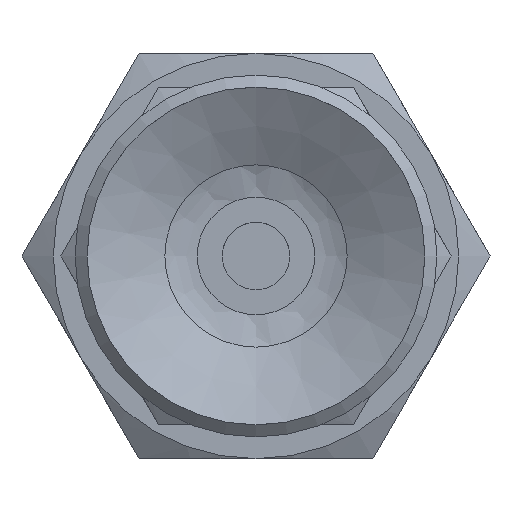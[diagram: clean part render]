
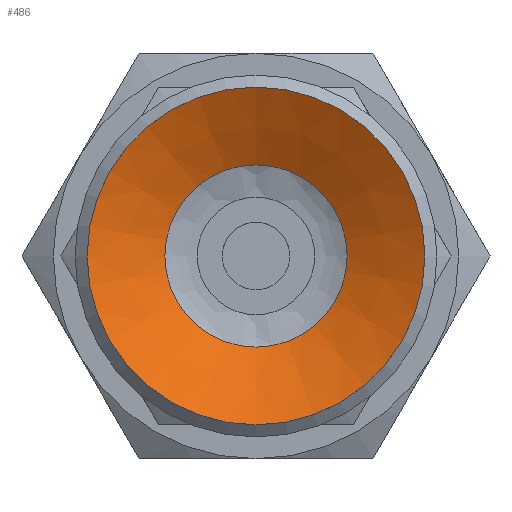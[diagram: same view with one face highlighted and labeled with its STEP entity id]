
A CAD part, front view. The second image highlights one B-rep face of the part: STEP entity #486.
In plain terms, the highlighted conical face has half-angle 61.39 degrees and reference radius 2.25 mm.
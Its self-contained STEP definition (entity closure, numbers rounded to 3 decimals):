
#486=ADVANCED_FACE('',(#722,#723),#724,.F.);
#722=FACE_BOUND('',#991,.T.);
#723=FACE_OUTER_BOUND('',#992,.T.);
#724=CONICAL_SURFACE('',#993,2.25,1.071);
#991=EDGE_LOOP('',(#1663));
#992=EDGE_LOOP('',(#1664));
#993=AXIS2_PLACEMENT_3D('',#1665,#1666,#1667);
#1663=ORIENTED_EDGE('',*,*,#1907,.T.);
#1664=ORIENTED_EDGE('',*,*,#1908,.T.);
#1665=CARTESIAN_POINT('',(0.0,1.5,0.0));
#1666=DIRECTION('',(-0.0,-1.0,0.));
#1667=DIRECTION('',(0.0,0.,-1.0));
#1907=EDGE_CURVE('',#2196,#2196,#2197,.T.);
#1908=EDGE_CURVE('',#2198,#2198,#2199,.T.);
#2196=VERTEX_POINT('',#2888);
#2197=CIRCLE('',#2889,2.698);
#2198=VERTEX_POINT('',#2890);
#2199=CIRCLE('',#2891,5.);
#2888=CARTESIAN_POINT('',(0.0,1.256,-2.698));
#2889=AXIS2_PLACEMENT_3D('',#3162,#3163,#3164);
#2890=CARTESIAN_POINT('',(0.0,0.,-5.));
#2891=AXIS2_PLACEMENT_3D('',#3165,#3166,#3167);
#3162=CARTESIAN_POINT('',(0.0,1.256,0.0));
#3163=DIRECTION('',(0.0,1.0,0.));
#3164=DIRECTION('',(0.0,0.,-1.0));
#3165=CARTESIAN_POINT('',(0.0,0.0,0.0));
#3166=DIRECTION('',(0.0,-1.0,0.));
#3167=DIRECTION('',(0.0,0.,-1.0));
